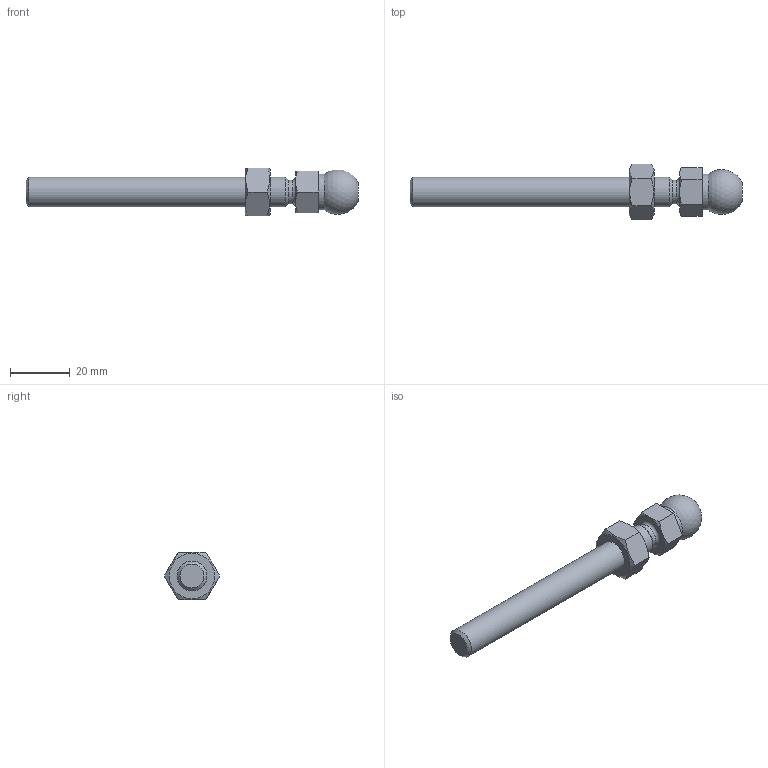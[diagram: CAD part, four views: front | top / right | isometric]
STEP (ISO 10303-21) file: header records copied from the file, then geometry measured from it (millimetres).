
FILE_DESCRIPTION(('STEP AP203'), '1');
FILE_NAME('A00020.110090', '', ('UNSPECIFIED'), ('UNSPECIFIED'), 'C3D Converter', 'C3D Toolkit', '');
FILE_SCHEMA(('CONFIG_CONTROL_DESIGN'));
Length unit declared in the file: millimetre
Products named in the file (2): A00020.110090
Assembly tree (1 placements, depth 2):
  A00020.110090
    (unnamed)
Bounding box: 110.8 x 18.48 x 16 mm (x, y, z)
Volume: 11400.7 mm3; surface area: 4996.2 mm2
Topology: 2 solids, 2 shells, 36 faces, 75 edges, 45 vertices
Faces by surface type: plane 18, cone 12, cylinder 4, sphere 1, torus 1
Full cylindrical faces by diameter (mm): 8 x1, 8.376 x1, 10 x1, 12 x1
Entity records: 1785 total; most frequent: CARTESIAN_POINT 1002, DIRECTION 136, ORIENTED_EDGE 126, EDGE_CURVE 63, AXIS2_PLACEMENT_3D 59, EDGE_LOOP 52, VERTEX_POINT 45, ADVANCED_FACE 36
